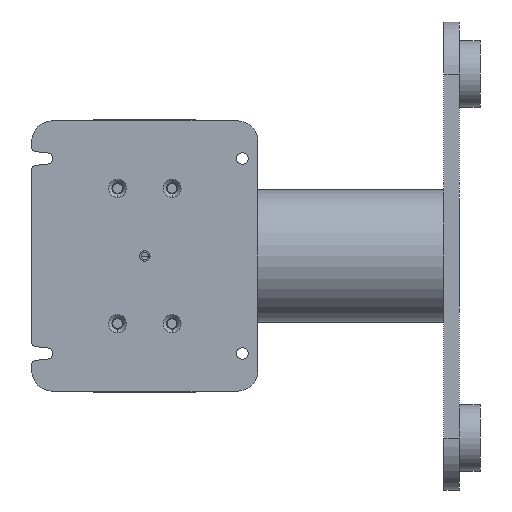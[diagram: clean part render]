
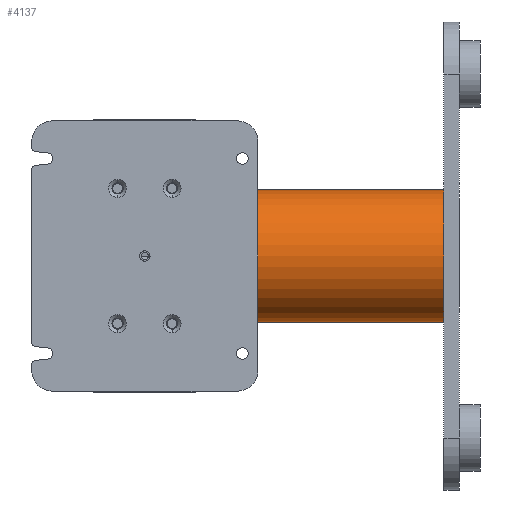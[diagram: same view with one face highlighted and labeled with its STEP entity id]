
A CAD part, left-side view. The second image highlights one B-rep face of the part: STEP entity #4137.
In plain terms, the highlighted cylindrical face has radius 25.4 mm (diameter 50.8 mm), a partial arc.
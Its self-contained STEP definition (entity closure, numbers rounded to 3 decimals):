
#2773=DIRECTION('',(0.,1.,0.));
#2774=VECTOR('',#2773,95.);
#2775=CARTESIAN_POINT('',(0.,-95.,25.4));
#2776=LINE('',#2775,#2774);
#2777=DIRECTION('',(0.,1.,0.));
#2778=VECTOR('',#2777,95.);
#2779=CARTESIAN_POINT('',(0.,-95.,-25.4));
#2780=LINE('',#2779,#2778);
#2781=CARTESIAN_POINT('',(0.,0.,0.));
#2782=DIRECTION('',(0.,1.,0.));
#2783=DIRECTION('',(0.,0.,-1.));
#2784=AXIS2_PLACEMENT_3D('',#2781,#2782,#2783);
#3181=CARTESIAN_POINT('',(0.,-95.,0.));
#3182=DIRECTION('',(0.,1.,0.));
#3183=DIRECTION('',(0.,0.,-1.));
#3184=AXIS2_PLACEMENT_3D('',#3181,#3182,#3183);
#3679=CARTESIAN_POINT('',(0.,0.,-25.4));
#3680=CARTESIAN_POINT('',(0.,0.,25.4));
#3681=VERTEX_POINT('',#3679);
#3682=VERTEX_POINT('',#3680);
#3859=CARTESIAN_POINT('',(0.,-95.,25.4));
#3860=VERTEX_POINT('',#3859);
#3861=CARTESIAN_POINT('',(0.,-95.,-25.4));
#3862=VERTEX_POINT('',#3861);
#4123=CARTESIAN_POINT('',(0.,0.,0.));
#4124=DIRECTION('',(0.,1.,0.));
#4125=DIRECTION('',(0.,0.,1.));
#4126=AXIS2_PLACEMENT_3D('',#4123,#4124,#4125);
#4127=CYLINDRICAL_SURFACE('',#4126,25.4);
#4129=ORIENTED_EDGE('',*,*,#4128,.F.);
#4131=ORIENTED_EDGE('',*,*,#4130,.F.);
#4133=ORIENTED_EDGE('',*,*,#4132,.T.);
#4134=ORIENTED_EDGE('',*,*,#3938,.T.);
#4135=EDGE_LOOP('',(#4129,#4131,#4133,#4134));
#4136=FACE_OUTER_BOUND('',#4135,.F.);
#4137=ADVANCED_FACE('',(#4136),#4127,.T.);
#2785=CIRCLE('',#2784,25.4);
#3185=CIRCLE('',#3184,25.4);
#3938=EDGE_CURVE('',#3681,#3682,#2785,.T.);
#4128=EDGE_CURVE('',#3860,#3682,#2776,.T.);
#4130=EDGE_CURVE('',#3862,#3860,#3185,.T.);
#4132=EDGE_CURVE('',#3862,#3681,#2780,.T.);
